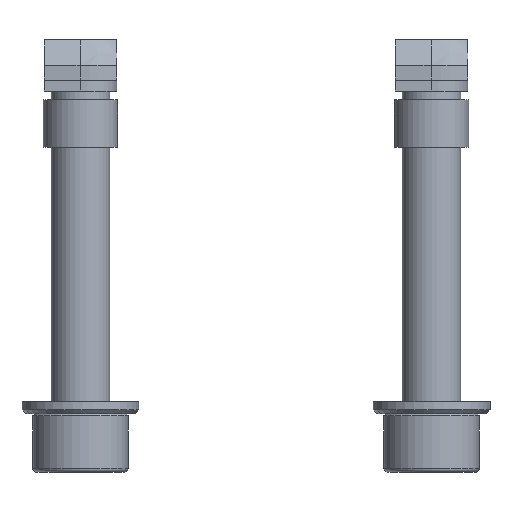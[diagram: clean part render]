
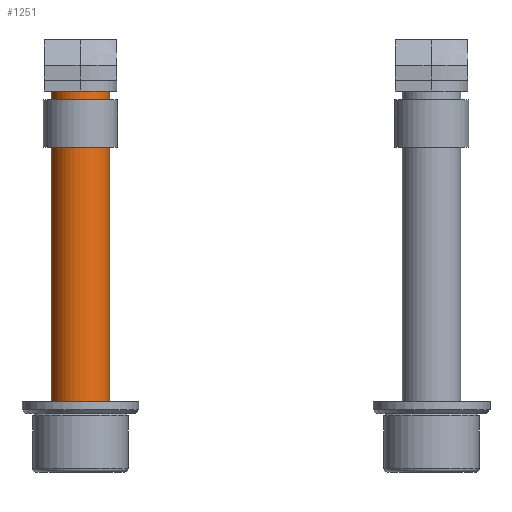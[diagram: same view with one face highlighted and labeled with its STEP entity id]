
A CAD part, front view. The second image highlights one B-rep face of the part: STEP entity #1251.
In plain terms, the highlighted cylindrical face has radius 4 mm (diameter 8 mm), a partial arc.
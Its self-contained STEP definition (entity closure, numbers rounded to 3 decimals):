
#277 = CIRCLE ( 'NONE', #2857, 4. ) ;
#479 = CARTESIAN_POINT ( 'NONE',  ( 0., 0., 50. ) ) ;
#488 = VERTEX_POINT ( 'NONE', #3142 ) ;
#493 = CARTESIAN_POINT ( 'NONE',  ( 4., 0., 0. ) ) ;
#580 = ORIENTED_EDGE ( 'NONE', *, *, #794, .T. ) ;
#606 = ORIENTED_EDGE ( 'NONE', *, *, #2960, .F. ) ;
#794 = EDGE_CURVE ( 'NONE', #488, #2082, #2441, .T. ) ;
#807 = DIRECTION ( 'NONE',  ( 0., 0., -1. ) ) ;
#917 = AXIS2_PLACEMENT_3D ( 'NONE', #2324, #2687, #3400 ) ;
#1146 = EDGE_CURVE ( 'NONE', #2136, #2082, #277, .T. ) ;
#1172 = CARTESIAN_POINT ( 'NONE',  ( 4., 0., 44.1 ) ) ;
#1182 = DIRECTION ( 'NONE',  ( 0., 0., -1. ) ) ;
#1198 = ORIENTED_EDGE ( 'NONE', *, *, #3154, .T. ) ;
#1251 = ADVANCED_FACE ( 'NONE', ( #1395 ), #2119, .T. ) ;
#1276 = DIRECTION ( 'NONE',  ( -1., 0., 0. ) ) ;
#1395 = FACE_OUTER_BOUND ( 'NONE', #2164, .T. ) ;
#1625 = CARTESIAN_POINT ( 'NONE',  ( -4., 0., 50. ) ) ;
#1814 = VERTEX_POINT ( 'NONE', #1172 ) ;
#1851 = CIRCLE ( 'NONE', #917, 4. ) ;
#1920 = DIRECTION ( 'NONE',  ( 0., 0., -1. ) ) ;
#2082 = VERTEX_POINT ( 'NONE', #3265 ) ;
#2112 = VECTOR ( 'NONE', #1182, 1000. ) ;
#2119 = CYLINDRICAL_SURFACE ( 'NONE', #2477, 4. ) ;
#2136 = VERTEX_POINT ( 'NONE', #493 ) ;
#2164 = EDGE_LOOP ( 'NONE', ( #606, #1198, #580, #3214 ) ) ;
#2324 = CARTESIAN_POINT ( 'NONE',  ( 0., 0., 44.1 ) ) ;
#2441 = LINE ( 'NONE', #1625, #3322 ) ;
#2477 = AXIS2_PLACEMENT_3D ( 'NONE', #479, #807, #3155 ) ;
#2598 = CARTESIAN_POINT ( 'NONE',  ( 0., 0., 0. ) ) ;
#2687 = DIRECTION ( 'NONE',  ( 0., 0., -1. ) ) ;
#2747 = LINE ( 'NONE', #3420, #2112 ) ;
#2857 = AXIS2_PLACEMENT_3D ( 'NONE', #2598, #3042, #1276 ) ;
#2960 = EDGE_CURVE ( 'NONE', #1814, #2136, #2747, .T. ) ;
#3042 = DIRECTION ( 'NONE',  ( 0., 0., -1. ) ) ;
#3142 = CARTESIAN_POINT ( 'NONE',  ( -4., 0., 44.1 ) ) ;
#3154 = EDGE_CURVE ( 'NONE', #1814, #488, #1851, .T. ) ;
#3155 = DIRECTION ( 'NONE',  ( -1., 0., 0. ) ) ;
#3214 = ORIENTED_EDGE ( 'NONE', *, *, #1146, .F. ) ;
#3265 = CARTESIAN_POINT ( 'NONE',  ( -4., 0., 0. ) ) ;
#3322 = VECTOR ( 'NONE', #1920, 1000. ) ;
#3400 = DIRECTION ( 'NONE',  ( 1., 0., 0. ) ) ;
#3420 = CARTESIAN_POINT ( 'NONE',  ( 4., 0., 50. ) ) ;
